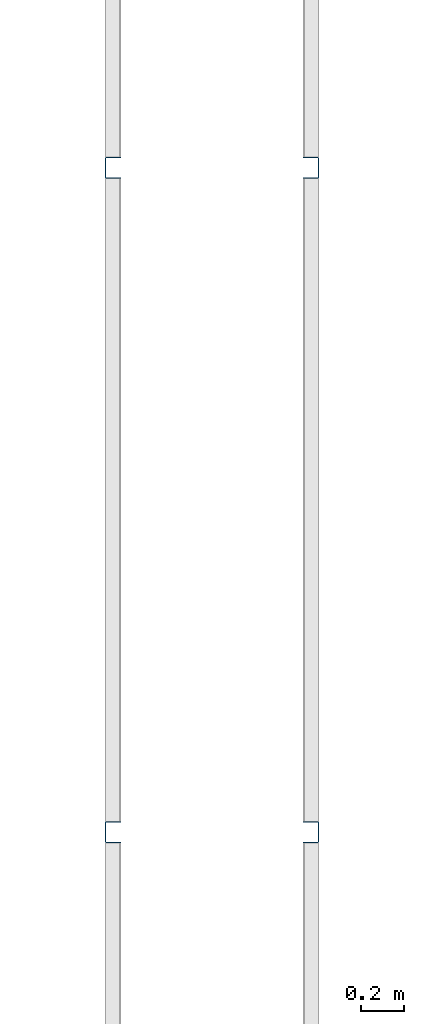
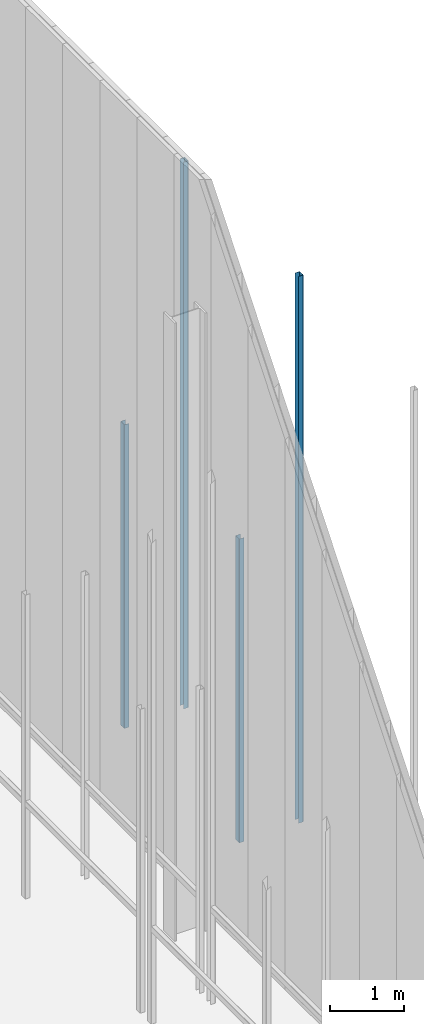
# One storey, part 60 of 302: 4 columns.
"""IFC2X3 building model written with IfcOpenShell, lengths in metres."""

from ifc_helpers import new_model, entity, si_unit, converted_unit, derived_unit, direction, frame, frame_2d, origin, place, context, subcontext, project, spatial, polyline, circle_curve, parameter, trimmed, segment, composite_curve, outline, extrude, source, transform, mapped, material, type_object, type_shapes, element, save


model = new_model("IFC2X3")

# Units and contexts
model_context = context("Model", 3, precision=1e-05, world=origin(), true_north=direction((6.12303176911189e-17, 1.0)))
body_context = subcontext(model_context, "Body", "Model", "MODEL_VIEW")
ifc_project = project(units=[si_unit("LENGTHUNIT", "METRE"), si_unit("AREAUNIT", "SQUARE_METRE"), si_unit("VOLUMEUNIT", "CUBIC_METRE"), converted_unit("PLANEANGLEUNIT", "DEGREE", entity("IfcRatioMeasure", 0.0174532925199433), si_unit("PLANEANGLEUNIT", "RADIAN"), dimensions=[0, 0, 0, 0, 0, 0, 0]), si_unit("MASSUNIT", "GRAM", prefix="KILO"), derived_unit("MASSDENSITYUNIT", [(si_unit("MASSUNIT", "GRAM", prefix="KILO"), 1), (si_unit("LENGTHUNIT", "METRE"), -3)]), derived_unit("MOMENTOFINERTIAUNIT", [(si_unit("LENGTHUNIT", "METRE"), 4)]), si_unit("TIMEUNIT", "SECOND"), si_unit("FREQUENCYUNIT", "HERTZ"), si_unit("THERMODYNAMICTEMPERATUREUNIT", "DEGREE_CELSIUS"), derived_unit("THERMALTRANSMITTANCEUNIT", [(si_unit("MASSUNIT", "GRAM", prefix="KILO"), 1), (si_unit("THERMODYNAMICTEMPERATUREUNIT", "KELVIN"), -1), (si_unit("TIMEUNIT", "SECOND"), -3)]), derived_unit("VOLUMETRICFLOWRATEUNIT", [(si_unit("LENGTHUNIT", "METRE"), 3), (si_unit("TIMEUNIT", "SECOND"), -1)]), si_unit("ELECTRICCURRENTUNIT", "AMPERE"), si_unit("ELECTRICVOLTAGEUNIT", "VOLT"), si_unit("POWERUNIT", "WATT"), si_unit("FORCEUNIT", "NEWTON", prefix="KILO"), si_unit("ILLUMINANCEUNIT", "LUX"), si_unit("LUMINOUSFLUXUNIT", "LUMEN"), si_unit("LUMINOUSINTENSITYUNIT", "CANDELA"), derived_unit("USERDEFINED", [(si_unit("MASSUNIT", "GRAM", prefix="KILO"), -1), (si_unit("LENGTHUNIT", "METRE"), -2), (si_unit("TIMEUNIT", "SECOND"), 3), (si_unit("LUMINOUSFLUXUNIT", "LUMEN"), 1)]), derived_unit("LINEARVELOCITYUNIT", [(si_unit("LENGTHUNIT", "METRE"), 1), (si_unit("TIMEUNIT", "SECOND"), -1)]), si_unit("PRESSUREUNIT", "PASCAL"), derived_unit("USERDEFINED", [(si_unit("LENGTHUNIT", "METRE"), -2), (si_unit("MASSUNIT", "GRAM", prefix="KILO"), 1), (si_unit("TIMEUNIT", "SECOND"), -2)]), derived_unit("LINEARFORCEUNIT", [(si_unit("MASSUNIT", "GRAM", prefix="KILO"), 1), (si_unit("LENGTHUNIT", "METRE"), 1), (si_unit("TIMEUNIT", "SECOND"), -2), (si_unit("LENGTHUNIT", "METRE"), -1)]), derived_unit("PLANARFORCEUNIT", [(si_unit("MASSUNIT", "GRAM", prefix="KILO"), 1), (si_unit("LENGTHUNIT", "METRE"), 1), (si_unit("TIMEUNIT", "SECOND"), -2), (si_unit("LENGTHUNIT", "METRE"), -2)])], contexts=[model_context])

# Site, building, storey
site_placement = place(None, origin())
site = spatial("IfcSite", under=ifc_project, at=site_placement, Name="Default", CompositionType="ELEMENT")
building_placement = place(site_placement, origin())
building = spatial("IfcBuilding", under=site, at=building_placement, CompositionType="ELEMENT")
storey_placement = place(building_placement, frame((0.0, 0.0, -1.3)))
storey = spatial("IfcBuildingStorey", under=building, at=storey_placement, Name="00_EG", CompositionType="ELEMENT", Elevation=-1.3)

# Columns
ifc_material = material(Name="Metall - Baustahl S235")
column_type_1 = type_object("IfcColumnType", Name="Leichter Stahl Schlossschrauben Stütze:C 100", PredefinedType="COLUMN", material=ifc_material)
shared_shape_1 = source(origin(), body_context, "Body", "SweptSolid", [
    extrude(outline(composite_curve([segment(polyline([(-0.0214500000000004, -0.0499999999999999), (0.0469749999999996, -0.0499999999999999)]), True, "CONTINUOUS"), segment(polyline([(0.0469749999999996, -0.0499999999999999), (0.0469749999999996, -0.0449999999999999)]), True, "CONTINUOUS"), segment(polyline([(0.0469749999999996, -0.0449999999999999), (-0.0214500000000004, -0.045)]), True, "CONTINUOUS"), segment(trimmed(circle_curve(frame_2d((-0.0214500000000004, -0.043425), x_axis=(0.0, -1.0)), 0.00157500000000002), [parameter(270.0)], [parameter(0.0)], True, "PARAMETER"), False, "CONTINUOUS"), segment(polyline([(-0.0230250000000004, -0.0434249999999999), (-0.0230250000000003, 0.0434249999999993)]), True, "CONTINUOUS"), segment(trimmed(circle_curve(frame_2d((-0.0214500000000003, 0.0434249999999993), x_axis=(-1.0, 0.0)), 0.00157500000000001), [parameter(269.999999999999)], [parameter(0.0)], True, "PARAMETER"), False, "CONTINUOUS"), segment(polyline([(-0.0214500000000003, 0.0450000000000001), (0.0469750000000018, 0.0450000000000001)]), True, "CONTINUOUS"), segment(polyline([(0.0469750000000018, 0.0450000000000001), (0.0469750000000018, 0.0500000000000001)]), True, "CONTINUOUS"), segment(polyline([(0.0469750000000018, 0.0500000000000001), (-0.0214500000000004, 0.0500000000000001)]), True, "CONTINUOUS"), segment(trimmed(circle_curve(frame_2d((-0.0214500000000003, 0.043425), x_axis=(0.0, 1.0)), 0.0065750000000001), [parameter(0.0)], [parameter(89.9999999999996)], True, "PARAMETER"), True, "CONTINUOUS"), segment(polyline([(-0.0280250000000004, 0.043425), (-0.0280250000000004, -0.043425)]), True, "CONTINUOUS"), segment(trimmed(circle_curve(frame_2d((-0.0214500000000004, -0.0434249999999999), x_axis=(-1.0, 0.0)), 0.00657500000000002), [parameter(0.0)], [parameter(89.9999999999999)], True, "PARAMETER"), True, "CONTINUOUS")], self_intersect=False)), frame((0.0499999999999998, -0.0280250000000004, -0.0300000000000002), z_axis=(0.0, 0.0, 1.0), x_axis=(0.0, -1.0, 0.0)), (0.0, 0.0, 1.0), 9.0),
])
type_shapes(column_type_1, [shared_shape_1])
for number, where, z_axis, x_axis in (
    (1, (-175.230111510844, 58.148088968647, 1.3), (0.0, 0.0, 1.0), (0.0, -1.0, 0.0)),
    (2, (-175.230111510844, 61.2488562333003, 1.3), (0.0, 0.0, 1.0), (0.0, -1.0, 0.0)),
):
    element("IfcColumn", number, at=place(storey_placement, frame(where, z_axis=z_axis, x_axis=x_axis)), inside=storey, type_object=column_type_1, material=ifc_material, Name="Leichter Stahl Schlossschrauben Stütze:C 100", ObjectType="Leichter Stahl Schlossschrauben Stütze:C 100", context=body_context, shape_type="MappedRepresentation", body=[
        mapped(shared_shape_1, transform((0.0, 0.0, 0.0), scale=1.0)),
    ])
column_type_2 = type_object("IfcColumnType", Name="Leichter Stahl Schlossschrauben Stütze:C 100", PredefinedType="COLUMN", material=ifc_material)
shared_shape_2 = source(origin(), body_context, "Body", "SweptSolid", [
    extrude(outline(composite_curve([segment(polyline([(-0.0469749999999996, -0.0499999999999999), (0.0214500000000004, -0.0499999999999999)]), True, "CONTINUOUS"), segment(trimmed(circle_curve(frame_2d((0.0214500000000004, -0.0434249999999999), x_axis=(0.0, -1.0)), 0.00657500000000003), [parameter(0.0)], [parameter(89.9999999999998)], True, "PARAMETER"), True, "CONTINUOUS"), segment(polyline([(0.0280250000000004, -0.0434249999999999), (0.0280250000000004, 0.0434250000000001)]), True, "CONTINUOUS"), segment(trimmed(circle_curve(frame_2d((0.0214500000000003, 0.0434250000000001), x_axis=(1.0, 0.0)), 0.0065750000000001), [parameter(0.0)], [parameter(89.9999999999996)], True, "PARAMETER"), True, "CONTINUOUS"), segment(polyline([(0.0214500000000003, 0.0500000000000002), (-0.0469750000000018, 0.0500000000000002)]), True, "CONTINUOUS"), segment(polyline([(-0.0469750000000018, 0.0500000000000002), (-0.0469750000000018, 0.0450000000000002)]), True, "CONTINUOUS"), segment(polyline([(-0.0469750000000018, 0.0450000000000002), (0.0214500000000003, 0.0450000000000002)]), True, "CONTINUOUS"), segment(trimmed(circle_curve(frame_2d((0.0214500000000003, 0.0434249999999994), x_axis=(0.0, 1.0)), 0.00157500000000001), [parameter(269.999999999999)], [parameter(0.0)], True, "PARAMETER"), False, "CONTINUOUS"), segment(polyline([(0.0230250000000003, 0.0434249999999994), (0.0230250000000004, -0.0434249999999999)]), True, "CONTINUOUS"), segment(trimmed(circle_curve(frame_2d((0.0214500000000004, -0.0434249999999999), x_axis=(1.0, 0.0)), 0.00157500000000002), [parameter(270.0)], [parameter(0.0)], True, "PARAMETER"), False, "CONTINUOUS"), segment(polyline([(0.0214500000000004, -0.0449999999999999), (-0.0469749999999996, -0.0449999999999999)]), True, "CONTINUOUS"), segment(polyline([(-0.0469749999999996, -0.0449999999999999), (-0.0469749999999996, -0.0499999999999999)]), True, "CONTINUOUS")], self_intersect=False)), frame((0.0499999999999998, 0.0280250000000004, -0.0300000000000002), z_axis=(0.0, 0.0, 1.0), x_axis=(0.0, -1.0, 0.0)), (0.0, 0.0, 1.0), 5.0),
])
type_shapes(column_type_2, [shared_shape_2])
for number, where, z_axis, x_axis in (
    (3, (-176.230111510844, 58.148088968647, 1.3), (0.0, 0.0, 1.0), (0.0, -1.0, 0.0)),
    (4, (-176.230111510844, 61.2488562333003, 1.3), (0.0, 0.0, 1.0), (0.0, -1.0, 0.0)),
):
    element("IfcColumn", number, at=place(storey_placement, frame(where, z_axis=z_axis, x_axis=x_axis)), inside=storey, type_object=column_type_2, material=ifc_material, Name="Leichter Stahl Schlossschrauben Stütze:C 100", ObjectType="Leichter Stahl Schlossschrauben Stütze:C 100", context=body_context, shape_type="MappedRepresentation", body=[
        mapped(shared_shape_2, transform((0.0, 0.0, 0.0), scale=1.0)),
    ])

save(model, "model.ifc")
